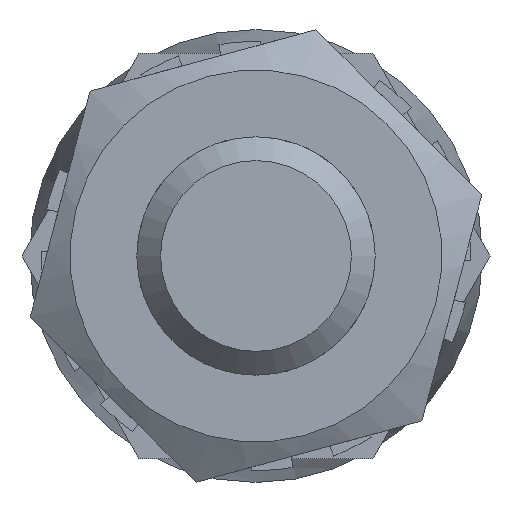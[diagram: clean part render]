
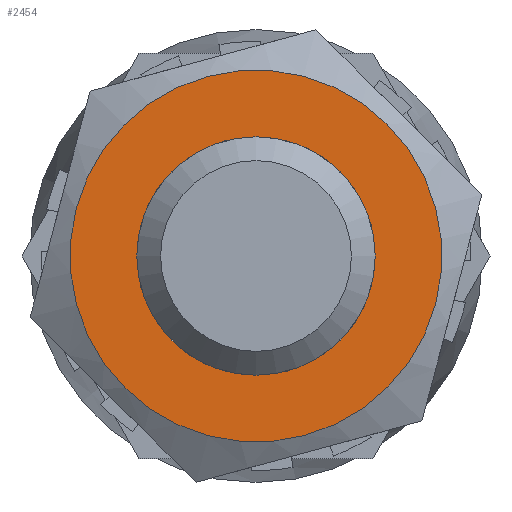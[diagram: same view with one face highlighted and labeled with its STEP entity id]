
A CAD part, front view. The second image highlights one B-rep face of the part: STEP entity #2454.
In plain terms, the highlighted planar face has unit normal (0, -1, 0) as drawn and (1, 0, 0) by its records, which use the part's own axes.
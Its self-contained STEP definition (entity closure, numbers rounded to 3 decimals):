
#553=PLANE('',#2751);
#583=FACE_BOUND('',#873,.T.);
#713=FACE_OUTER_BOUND('',#872,.T.);
#872=EDGE_LOOP('',(#2280));
#873=EDGE_LOOP('',(#2281));
#1034=CIRCLE('',#2750,5.);
#1035=CIRCLE('',#2752,7.8);
#1262=VERTEX_POINT('',#4235);
#1263=VERTEX_POINT('',#4238);
#1604=EDGE_CURVE('',#1262,#1262,#1034,.T.);
#1605=EDGE_CURVE('',#1263,#1263,#1035,.T.);
#2280=ORIENTED_EDGE('',*,*,#1605,.T.);
#2281=ORIENTED_EDGE('',*,*,#1604,.F.);
#2454=ADVANCED_FACE('',(#713,#583),#553,.T.);
#2750=AXIS2_PLACEMENT_3D('',#4236,#3509,#3510);
#2751=AXIS2_PLACEMENT_3D('',#4237,#3511,#3512);
#2752=AXIS2_PLACEMENT_3D('',#4239,#3513,#3514);
#3509=DIRECTION('center_axis',(1.,0.,0.));
#3510=DIRECTION('ref_axis',(0.,0.,1.));
#3511=DIRECTION('center_axis',(1.,0.,0.));
#3512=DIRECTION('ref_axis',(0.,0.,-1.));
#3513=DIRECTION('center_axis',(1.,0.,0.));
#3514=DIRECTION('ref_axis',(0.,1.,0.));
#4235=CARTESIAN_POINT('',(5.,0.,-5.));
#4236=CARTESIAN_POINT('Origin',(5.,0.,0.));
#4237=CARTESIAN_POINT('Origin',(5.,0.,0.));
#4238=CARTESIAN_POINT('',(5.,7.8,0.));
#4239=CARTESIAN_POINT('Origin',(5.,0.,0.));
